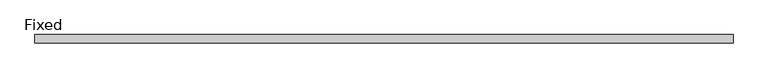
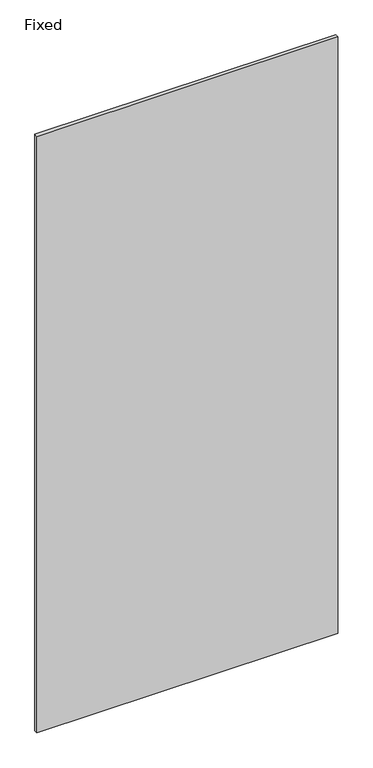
"""IFC4 building model written with IfcOpenShell, lengths in millimetres: plate geometry, 2019_Panel_Klein_Nature_Fixed : Fixed."""

from ifc_helpers import new_model, si_unit, origin, origin_with_axes, place, context, project, spatial, polyline, outline, extrude, source, transform, mapped, element, save


def fixed_050bc72c(model_context):
    return source(origin(), model_context, "Body", "SweptSolid", [
        extrude(outline(polyline([(-500.0000001, -26.3), (-500.0000001, -14.3), (500.0000001, -14.3), (500.0000001, -26.3), (-500.0000001, -26.3)])), origin_with_axes(), (0.0, 0.0, 1.0), 2097.5000015),
    ])


if __name__ == "__main__":
    model = new_model("IFC4")
    model_context = context("Model", 3, world=origin())
    ifc_project = project(units=[si_unit("LENGTHUNIT", "METRE", prefix="MILLI")], contexts=[model_context])
    site = spatial("IfcSite", under=ifc_project)
    building = spatial("IfcBuilding", under=site)
    placement = place(None, origin())
    fixed_shape = fixed_050bc72c(model_context)
    element("IfcPlate", 1, ObjectType="2019_Panel_Klein_Nature_Fixed : Fixed", at=placement, inside=building, context=model_context, shape_type="MappedRepresentation", body=[
        mapped(fixed_shape, transform((0.0, 0.0, 0.0), x_axis=(1.0, 0.0, 0.0), y_axis=(0.0, 1.0, 0.0), z_axis=(0.0, 0.0, 1.0))),
    ])
    save(model, "model.ifc")
